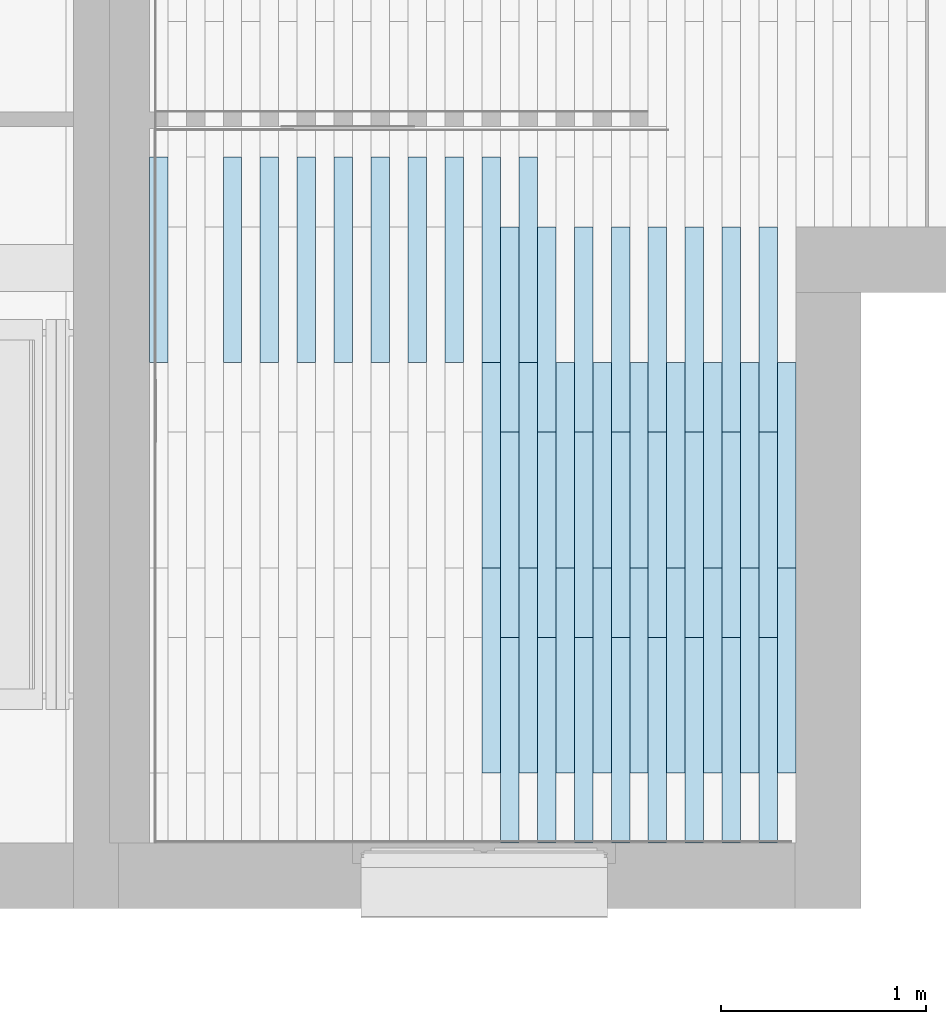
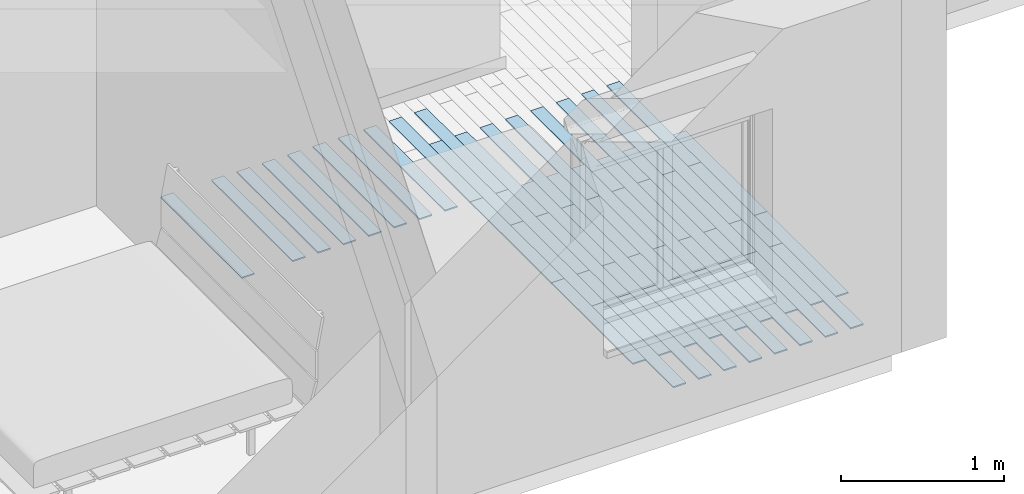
# One storey, part 2 of 50: 52 slabs.
"""IFC2X3 building model written with IfcOpenShell, lengths in metres."""

from ifc_helpers import new_model, entity, si_unit, converted_unit, derived_unit, direction, frame, frame_2d, origin, place, context, subcontext, project, spatial, rectangle, extrude, material, layer, layer_set, layer_usage, element, save


model = new_model("IFC2X3")

# Units and contexts
model_context = context("Model", 3, precision=1e-05, world=origin(), true_north=direction((6.12303176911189e-17, 1.0)))
context_of_model = context(None, 3, precision=1e-05, world=origin(), true_north=direction((6.12303176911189e-17, 1.0)))
body_context = subcontext(model_context, "Body", "Model", "MODEL_VIEW")
ifc_project = project(units=[si_unit("LENGTHUNIT", "METRE"), si_unit("AREAUNIT", "SQUARE_METRE"), si_unit("VOLUMEUNIT", "CUBIC_METRE"), converted_unit("PLANEANGLEUNIT", "DEGREE", entity("IfcRatioMeasure", 0.0174532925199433), si_unit("PLANEANGLEUNIT", "RADIAN"), dimensions=[0, 0, 0, 0, 0, 0, 0]), si_unit("MASSUNIT", "GRAM", prefix="KILO"), si_unit("TIMEUNIT", "SECOND"), si_unit("FREQUENCYUNIT", "HERTZ"), si_unit("THERMODYNAMICTEMPERATUREUNIT", "DEGREE_CELSIUS"), derived_unit("THERMALTRANSMITTANCEUNIT", [(si_unit("MASSUNIT", "GRAM", prefix="KILO"), 1), (si_unit("THERMODYNAMICTEMPERATUREUNIT", "KELVIN"), -1), (si_unit("TIMEUNIT", "SECOND"), -3)]), derived_unit("VOLUMETRICFLOWRATEUNIT", [(si_unit("LENGTHUNIT", "METRE"), 3), (si_unit("TIMEUNIT", "SECOND"), -1)]), si_unit("ELECTRICCURRENTUNIT", "AMPERE"), si_unit("ELECTRICVOLTAGEUNIT", "VOLT"), si_unit("POWERUNIT", "WATT"), si_unit("FORCEUNIT", "NEWTON", prefix="KILO"), si_unit("ILLUMINANCEUNIT", "LUX"), si_unit("LUMINOUSFLUXUNIT", "LUMEN"), si_unit("LUMINOUSINTENSITYUNIT", "CANDELA"), si_unit("PRESSUREUNIT", "PASCAL")], contexts=[model_context, context_of_model])

# Site, building, storey
site_placement = place(None, origin())
site = spatial("IfcSite", under=ifc_project, at=site_placement, Name="Surface", CompositionType="ELEMENT")
building_placement = place(site_placement, origin())
building = spatial("IfcBuilding", under=site, at=building_placement, CompositionType="ELEMENT")
storey_placement = place(building_placement, frame((0.0, 0.0, 2.82)))
storey = spatial("IfcBuildingStorey", under=building, at=storey_placement, Name="ETAGE", CompositionType="ELEMENT", Elevation=2.82)

# Slabs
ifc_material = material(Name="PARQUET BAMBOU")
ifc_layer = layer(ifc_material, 0.01)
ifc_layer_set = layer_set([ifc_layer], Name="Sol:LAME DE BAMBOU")
ifc_layer_usage_1 = layer_usage(ifc_layer_set, "AXIS3", "POSITIVE", 0.0)
slab_1_placement = place(storey_placement, origin())
element("IfcSlab", 1, at=slab_1_placement, inside=storey, material=ifc_layer_usage_1, Name="Sol:LAME DE BAMBOU", ObjectType="Sol:LAME DE BAMBOU", PredefinedType="FLOOR", context=body_context, shape_type="SweptSolid", body=[
    extrude(rectangle(XDim=0.999999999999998, YDim=0.0899999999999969, at=frame_2d((8.68749516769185e-15, 8.66320903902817e-15), x_axis=(1.0, 0.0))), frame((84.3060898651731, 84.0875239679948, 0.05), z_axis=(0.0, 0.0, -1.0), x_axis=(0.0, 1.0, 0.0)), (0.0, 0.0, 1.0), 0.00999999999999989),
])
ifc_layer_usage_2 = layer_usage(ifc_layer_set, "AXIS3", "POSITIVE", 0.0)
slab_2_placement = place(storey_placement, origin())
element("IfcSlab", 2, at=slab_2_placement, inside=storey, material=ifc_layer_usage_2, Name="Sol:LAME DE BAMBOU", ObjectType="Sol:LAME DE BAMBOU", PredefinedType="FLOOR", context=body_context, shape_type="SweptSolid", body=[
    extrude(rectangle(XDim=0.999999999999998, YDim=0.0899999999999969, at=frame_2d((8.68749516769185e-15, 8.66320903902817e-15), x_axis=(1.0, 0.0))), frame((84.4860898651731, 84.0875239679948, 0.05), z_axis=(0.0, 0.0, -1.0), x_axis=(0.0, 1.0, 0.0)), (0.0, 0.0, 1.0), 0.00999999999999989),
])
ifc_layer_usage_3 = layer_usage(ifc_layer_set, "AXIS3", "POSITIVE", 0.0)
slab_3_placement = place(storey_placement, origin())
element("IfcSlab", 3, at=slab_3_placement, inside=storey, material=ifc_layer_usage_3, Name="Sol:LAME DE BAMBOU", ObjectType="Sol:LAME DE BAMBOU", PredefinedType="FLOOR", context=body_context, shape_type="SweptSolid", body=[
    extrude(rectangle(XDim=0.999999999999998, YDim=0.0899999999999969, at=frame_2d((8.68749516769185e-15, 8.66320903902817e-15), x_axis=(1.0, 0.0))), frame((84.6660898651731, 84.0875239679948, 0.05), z_axis=(0.0, 0.0, -1.0), x_axis=(0.0, 1.0, 0.0)), (0.0, 0.0, 1.0), 0.00999999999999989),
])
ifc_layer_usage_4 = layer_usage(ifc_layer_set, "AXIS3", "POSITIVE", 0.0)
slab_4_placement = place(storey_placement, origin())
element("IfcSlab", 4, at=slab_4_placement, inside=storey, material=ifc_layer_usage_4, Name="Sol:LAME DE BAMBOU", ObjectType="Sol:LAME DE BAMBOU", PredefinedType="FLOOR", context=body_context, shape_type="SweptSolid", body=[
    extrude(rectangle(XDim=0.999999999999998, YDim=0.0899999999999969, at=frame_2d((8.68749516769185e-15, 8.66320903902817e-15), x_axis=(1.0, 0.0))), frame((84.8460898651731, 84.0875239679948, 0.05), z_axis=(0.0, 0.0, -1.0), x_axis=(0.0, 1.0, 0.0)), (0.0, 0.0, 1.0), 0.00999999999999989),
])
ifc_layer_usage_5 = layer_usage(ifc_layer_set, "AXIS3", "POSITIVE", 0.0)
slab_5_placement = place(storey_placement, origin())
element("IfcSlab", 5, at=slab_5_placement, inside=storey, material=ifc_layer_usage_5, Name="Sol:LAME DE BAMBOU", ObjectType="Sol:LAME DE BAMBOU", PredefinedType="FLOOR", context=body_context, shape_type="SweptSolid", body=[
    extrude(rectangle(XDim=0.999999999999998, YDim=0.0899999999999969, at=frame_2d((8.68749516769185e-15, 8.66320903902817e-15), x_axis=(1.0, 0.0))), frame((85.026089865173, 84.0875239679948, 0.05), z_axis=(0.0, 0.0, -1.0), x_axis=(0.0, 1.0, 0.0)), (0.0, 0.0, 1.0), 0.00999999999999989),
])
ifc_layer_usage_6 = layer_usage(ifc_layer_set, "AXIS3", "POSITIVE", 0.0)
slab_6_placement = place(storey_placement, origin())
element("IfcSlab", 6, at=slab_6_placement, inside=storey, material=ifc_layer_usage_6, Name="Sol:LAME DE BAMBOU", ObjectType="Sol:LAME DE BAMBOU", PredefinedType="FLOOR", context=body_context, shape_type="SweptSolid", body=[
    extrude(rectangle(XDim=0.999999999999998, YDim=0.0899999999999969, at=frame_2d((8.68749516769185e-15, 8.66320903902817e-15), x_axis=(1.0, 0.0))), frame((85.206089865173, 84.0875239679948, 0.05), z_axis=(0.0, 0.0, -1.0), x_axis=(0.0, 1.0, 0.0)), (0.0, 0.0, 1.0), 0.00999999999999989),
])
ifc_layer_usage_7 = layer_usage(ifc_layer_set, "AXIS3", "POSITIVE", 0.0)
slab_7_placement = place(storey_placement, origin())
element("IfcSlab", 7, at=slab_7_placement, inside=storey, material=ifc_layer_usage_7, Name="Sol:LAME DE BAMBOU", ObjectType="Sol:LAME DE BAMBOU", PredefinedType="FLOOR", context=body_context, shape_type="SweptSolid", body=[
    extrude(rectangle(XDim=0.999999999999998, YDim=0.0899999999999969, at=frame_2d((8.68749516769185e-15, 8.66320903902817e-15), x_axis=(1.0, 0.0))), frame((85.386089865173, 84.0875239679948, 0.05), z_axis=(0.0, 0.0, -1.0), x_axis=(0.0, 1.0, 0.0)), (0.0, 0.0, 1.0), 0.00999999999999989),
])
ifc_layer_usage_8 = layer_usage(ifc_layer_set, "AXIS3", "POSITIVE", 0.0)
slab_8_placement = place(storey_placement, origin())
element("IfcSlab", 8, at=slab_8_placement, inside=storey, material=ifc_layer_usage_8, Name="Sol:LAME DE BAMBOU", ObjectType="Sol:LAME DE BAMBOU", PredefinedType="FLOOR", context=body_context, shape_type="SweptSolid", body=[
    extrude(rectangle(XDim=0.999999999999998, YDim=0.0899999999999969, at=frame_2d((8.68749516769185e-15, 8.66320903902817e-15), x_axis=(1.0, 0.0))), frame((85.566089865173, 82.0875239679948, 0.05), z_axis=(0.0, 0.0, -1.0), x_axis=(0.0, 1.0, 0.0)), (0.0, 0.0, 1.0), 0.00999999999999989),
])
ifc_layer_usage_9 = layer_usage(ifc_layer_set, "AXIS3", "POSITIVE", 0.0)
slab_9_placement = place(storey_placement, origin())
element("IfcSlab", 9, at=slab_9_placement, inside=storey, material=ifc_layer_usage_9, Name="Sol:LAME DE BAMBOU", ObjectType="Sol:LAME DE BAMBOU", PredefinedType="FLOOR", context=body_context, shape_type="SweptSolid", body=[
    extrude(rectangle(XDim=0.999999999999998, YDim=0.0899999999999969, at=frame_2d((-8.68749516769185e-15, 8.66320903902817e-15), x_axis=(1.0, 0.0))), frame((85.566089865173, 83.0875239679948, 0.05), z_axis=(0.0, 0.0, -1.0), x_axis=(0.0, 1.0, 0.0)), (0.0, 0.0, 1.0), 0.00999999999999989),
])
ifc_layer_usage_10 = layer_usage(ifc_layer_set, "AXIS3", "POSITIVE", 0.0)
slab_10_placement = place(storey_placement, origin())
element("IfcSlab", 10, at=slab_10_placement, inside=storey, material=ifc_layer_usage_10, Name="Sol:LAME DE BAMBOU", ObjectType="Sol:LAME DE BAMBOU", PredefinedType="FLOOR", context=body_context, shape_type="SweptSolid", body=[
    extrude(rectangle(XDim=0.999999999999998, YDim=0.0899999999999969, at=frame_2d((8.68749516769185e-15, 8.66320903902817e-15), x_axis=(1.0, 0.0))), frame((85.566089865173, 84.0875239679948, 0.05), z_axis=(0.0, 0.0, -1.0), x_axis=(0.0, 1.0, 0.0)), (0.0, 0.0, 1.0), 0.00999999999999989),
])
ifc_layer_usage_11 = layer_usage(ifc_layer_set, "AXIS3", "POSITIVE", 0.0)
slab_11_placement = place(storey_placement, origin())
element("IfcSlab", 11, at=slab_11_placement, inside=storey, material=ifc_layer_usage_11, Name="Sol:LAME DE BAMBOU", ObjectType="Sol:LAME DE BAMBOU", PredefinedType="FLOOR", context=body_context, shape_type="SweptSolid", body=[
    extrude(rectangle(XDim=0.999999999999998, YDim=0.0899999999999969, at=frame_2d((8.68749516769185e-15, -8.66320903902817e-15), x_axis=(1.0, 0.0))), frame((85.656089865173, 81.7475239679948, 0.05), z_axis=(0.0, 0.0, -1.0), x_axis=(0.0, 1.0, 0.0)), (0.0, 0.0, 1.0), 0.00999999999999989),
])
ifc_layer_usage_12 = layer_usage(ifc_layer_set, "AXIS3", "POSITIVE", 0.0)
slab_12_placement = place(storey_placement, origin())
element("IfcSlab", 12, at=slab_12_placement, inside=storey, material=ifc_layer_usage_12, Name="Sol:LAME DE BAMBOU", ObjectType="Sol:LAME DE BAMBOU", PredefinedType="FLOOR", context=body_context, shape_type="SweptSolid", body=[
    extrude(rectangle(XDim=0.999999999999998, YDim=0.0899999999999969, at=frame_2d((-8.68749516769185e-15, -8.66320903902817e-15), x_axis=(1.0, 0.0))), frame((85.656089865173, 82.7475239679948, 0.05), z_axis=(0.0, 0.0, -1.0), x_axis=(0.0, 1.0, 0.0)), (0.0, 0.0, 1.0), 0.00999999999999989),
])
ifc_layer_usage_13 = layer_usage(ifc_layer_set, "AXIS3", "POSITIVE", 0.0)
slab_13_placement = place(storey_placement, origin())
element("IfcSlab", 13, at=slab_13_placement, inside=storey, material=ifc_layer_usage_13, Name="Sol:LAME DE BAMBOU", ObjectType="Sol:LAME DE BAMBOU", PredefinedType="FLOOR", context=body_context, shape_type="SweptSolid", body=[
    extrude(rectangle(XDim=0.999999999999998, YDim=0.0899999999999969, at=frame_2d((8.68749516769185e-15, -8.66320903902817e-15), x_axis=(1.0, 0.0))), frame((85.656089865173, 83.7475239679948, 0.05), z_axis=(0.0, 0.0, -1.0), x_axis=(0.0, 1.0, 0.0)), (0.0, 0.0, 1.0), 0.00999999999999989),
])
ifc_layer_usage_14 = layer_usage(ifc_layer_set, "AXIS3", "POSITIVE", 0.0)
slab_14_placement = place(storey_placement, origin())
element("IfcSlab", 14, at=slab_14_placement, inside=storey, material=ifc_layer_usage_14, Name="Sol:LAME DE BAMBOU", ObjectType="Sol:LAME DE BAMBOU", PredefinedType="FLOOR", context=body_context, shape_type="SweptSolid", body=[
    extrude(rectangle(XDim=0.999999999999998, YDim=0.0899999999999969, at=frame_2d((8.68749516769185e-15, 8.66320903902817e-15), x_axis=(1.0, 0.0))), frame((85.746089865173, 82.0875239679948, 0.05), z_axis=(0.0, 0.0, -1.0), x_axis=(0.0, 1.0, 0.0)), (0.0, 0.0, 1.0), 0.00999999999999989),
])
ifc_layer_usage_15 = layer_usage(ifc_layer_set, "AXIS3", "POSITIVE", 0.0)
slab_15_placement = place(storey_placement, origin())
element("IfcSlab", 15, at=slab_15_placement, inside=storey, material=ifc_layer_usage_15, Name="Sol:LAME DE BAMBOU", ObjectType="Sol:LAME DE BAMBOU", PredefinedType="FLOOR", context=body_context, shape_type="SweptSolid", body=[
    extrude(rectangle(XDim=0.999999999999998, YDim=0.0899999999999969, at=frame_2d((-8.68749516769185e-15, 8.66320903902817e-15), x_axis=(1.0, 0.0))), frame((85.746089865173, 83.0875239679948, 0.05), z_axis=(0.0, 0.0, -1.0), x_axis=(0.0, 1.0, 0.0)), (0.0, 0.0, 1.0), 0.00999999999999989),
])
ifc_layer_usage_16 = layer_usage(ifc_layer_set, "AXIS3", "POSITIVE", 0.0)
slab_16_placement = place(storey_placement, origin())
element("IfcSlab", 16, at=slab_16_placement, inside=storey, material=ifc_layer_usage_16, Name="Sol:LAME DE BAMBOU", ObjectType="Sol:LAME DE BAMBOU", PredefinedType="FLOOR", context=body_context, shape_type="SweptSolid", body=[
    extrude(rectangle(XDim=0.999999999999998, YDim=0.0899999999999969, at=frame_2d((8.68749516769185e-15, 8.66320903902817e-15), x_axis=(1.0, 0.0))), frame((85.746089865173, 84.0875239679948, 0.05), z_axis=(0.0, 0.0, -1.0), x_axis=(0.0, 1.0, 0.0)), (0.0, 0.0, 1.0), 0.00999999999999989),
])
ifc_layer_usage_17 = layer_usage(ifc_layer_set, "AXIS3", "POSITIVE", 0.0)
slab_17_placement = place(storey_placement, origin())
element("IfcSlab", 17, at=slab_17_placement, inside=storey, material=ifc_layer_usage_17, Name="Sol:LAME DE BAMBOU", ObjectType="Sol:LAME DE BAMBOU", PredefinedType="FLOOR", context=body_context, shape_type="SweptSolid", body=[
    extrude(rectangle(XDim=0.999999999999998, YDim=0.0899999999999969, at=frame_2d((8.68749516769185e-15, 8.66320903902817e-15), x_axis=(1.0, 0.0))), frame((85.836089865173, 81.7475239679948, 0.05), z_axis=(0.0, 0.0, -1.0), x_axis=(0.0, 1.0, 0.0)), (0.0, 0.0, 1.0), 0.00999999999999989),
])
ifc_layer_usage_18 = layer_usage(ifc_layer_set, "AXIS3", "POSITIVE", 0.0)
slab_18_placement = place(storey_placement, origin())
element("IfcSlab", 18, at=slab_18_placement, inside=storey, material=ifc_layer_usage_18, Name="Sol:LAME DE BAMBOU", ObjectType="Sol:LAME DE BAMBOU", PredefinedType="FLOOR", context=body_context, shape_type="SweptSolid", body=[
    extrude(rectangle(XDim=0.999999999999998, YDim=0.0899999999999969, at=frame_2d((-8.68749516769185e-15, 8.66320903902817e-15), x_axis=(1.0, 0.0))), frame((85.836089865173, 82.7475239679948, 0.05), z_axis=(0.0, 0.0, -1.0), x_axis=(0.0, 1.0, 0.0)), (0.0, 0.0, 1.0), 0.00999999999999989),
])
ifc_layer_usage_19 = layer_usage(ifc_layer_set, "AXIS3", "POSITIVE", 0.0)
slab_19_placement = place(storey_placement, origin())
element("IfcSlab", 19, at=slab_19_placement, inside=storey, material=ifc_layer_usage_19, Name="Sol:LAME DE BAMBOU", ObjectType="Sol:LAME DE BAMBOU", PredefinedType="FLOOR", context=body_context, shape_type="SweptSolid", body=[
    extrude(rectangle(XDim=0.999999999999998, YDim=0.0899999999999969, at=frame_2d((8.68749516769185e-15, 8.66320903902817e-15), x_axis=(1.0, 0.0))), frame((85.836089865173, 83.7475239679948, 0.05), z_axis=(0.0, 0.0, -1.0), x_axis=(0.0, 1.0, 0.0)), (0.0, 0.0, 1.0), 0.00999999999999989),
])
ifc_layer_usage_20 = layer_usage(ifc_layer_set, "AXIS3", "POSITIVE", 0.0)
slab_20_placement = place(storey_placement, origin())
element("IfcSlab", 20, at=slab_20_placement, inside=storey, material=ifc_layer_usage_20, Name="Sol:LAME DE BAMBOU", ObjectType="Sol:LAME DE BAMBOU", PredefinedType="FLOOR", context=body_context, shape_type="SweptSolid", body=[
    extrude(rectangle(XDim=0.999999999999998, YDim=0.0899999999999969, at=frame_2d((8.68749516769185e-15, 8.66320903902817e-15), x_axis=(1.0, 0.0))), frame((85.926089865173, 82.0875239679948, 0.05), z_axis=(0.0, 0.0, -1.0), x_axis=(0.0, 1.0, 0.0)), (0.0, 0.0, 1.0), 0.00999999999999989),
])
ifc_layer_usage_21 = layer_usage(ifc_layer_set, "AXIS3", "POSITIVE", 0.0)
slab_21_placement = place(storey_placement, origin())
element("IfcSlab", 21, at=slab_21_placement, inside=storey, material=ifc_layer_usage_21, Name="Sol:LAME DE BAMBOU", ObjectType="Sol:LAME DE BAMBOU", PredefinedType="FLOOR", context=body_context, shape_type="SweptSolid", body=[
    extrude(rectangle(XDim=0.999999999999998, YDim=0.0899999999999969, at=frame_2d((-8.68749516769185e-15, 8.66320903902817e-15), x_axis=(1.0, 0.0))), frame((85.926089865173, 83.0875239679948, 0.05), z_axis=(0.0, 0.0, -1.0), x_axis=(0.0, 1.0, 0.0)), (0.0, 0.0, 1.0), 0.00999999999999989),
])
ifc_layer_usage_22 = layer_usage(ifc_layer_set, "AXIS3", "POSITIVE", 0.0)
slab_22_placement = place(storey_placement, origin())
element("IfcSlab", 22, at=slab_22_placement, inside=storey, material=ifc_layer_usage_22, Name="Sol:LAME DE BAMBOU", ObjectType="Sol:LAME DE BAMBOU", PredefinedType="FLOOR", context=body_context, shape_type="SweptSolid", body=[
    extrude(rectangle(XDim=0.999999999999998, YDim=0.0899999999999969, at=frame_2d((8.68749516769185e-15, -8.66320903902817e-15), x_axis=(1.0, 0.0))), frame((86.016089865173, 81.7475239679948, 0.05), z_axis=(0.0, 0.0, -1.0), x_axis=(0.0, 1.0, 0.0)), (0.0, 0.0, 1.0), 0.00999999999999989),
])
ifc_layer_usage_23 = layer_usage(ifc_layer_set, "AXIS3", "POSITIVE", 0.0)
slab_23_placement = place(storey_placement, origin())
element("IfcSlab", 23, at=slab_23_placement, inside=storey, material=ifc_layer_usage_23, Name="Sol:LAME DE BAMBOU", ObjectType="Sol:LAME DE BAMBOU", PredefinedType="FLOOR", context=body_context, shape_type="SweptSolid", body=[
    extrude(rectangle(XDim=0.999999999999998, YDim=0.0899999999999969, at=frame_2d((-8.68749516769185e-15, -8.66320903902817e-15), x_axis=(1.0, 0.0))), frame((86.016089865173, 82.7475239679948, 0.05), z_axis=(0.0, 0.0, -1.0), x_axis=(0.0, 1.0, 0.0)), (0.0, 0.0, 1.0), 0.00999999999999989),
])
ifc_layer_usage_24 = layer_usage(ifc_layer_set, "AXIS3", "POSITIVE", 0.0)
slab_24_placement = place(storey_placement, origin())
element("IfcSlab", 24, at=slab_24_placement, inside=storey, material=ifc_layer_usage_24, Name="Sol:LAME DE BAMBOU", ObjectType="Sol:LAME DE BAMBOU", PredefinedType="FLOOR", context=body_context, shape_type="SweptSolid", body=[
    extrude(rectangle(XDim=0.999999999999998, YDim=0.0899999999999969, at=frame_2d((8.68749516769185e-15, -8.66320903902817e-15), x_axis=(1.0, 0.0))), frame((86.016089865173, 83.7475239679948, 0.05), z_axis=(0.0, 0.0, -1.0), x_axis=(0.0, 1.0, 0.0)), (0.0, 0.0, 1.0), 0.00999999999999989),
])
ifc_layer_usage_25 = layer_usage(ifc_layer_set, "AXIS3", "POSITIVE", 0.0)
slab_25_placement = place(storey_placement, origin())
element("IfcSlab", 25, at=slab_25_placement, inside=storey, material=ifc_layer_usage_25, Name="Sol:LAME DE BAMBOU", ObjectType="Sol:LAME DE BAMBOU", PredefinedType="FLOOR", context=body_context, shape_type="SweptSolid", body=[
    extrude(rectangle(XDim=0.999999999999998, YDim=0.0899999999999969, at=frame_2d((8.68749516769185e-15, 8.66320903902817e-15), x_axis=(1.0, 0.0))), frame((86.106089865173, 82.0875239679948, 0.05), z_axis=(0.0, 0.0, -1.0), x_axis=(0.0, 1.0, 0.0)), (0.0, 0.0, 1.0), 0.00999999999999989),
])
ifc_layer_usage_26 = layer_usage(ifc_layer_set, "AXIS3", "POSITIVE", 0.0)
slab_26_placement = place(storey_placement, origin())
element("IfcSlab", 26, at=slab_26_placement, inside=storey, material=ifc_layer_usage_26, Name="Sol:LAME DE BAMBOU", ObjectType="Sol:LAME DE BAMBOU", PredefinedType="FLOOR", context=body_context, shape_type="SweptSolid", body=[
    extrude(rectangle(XDim=0.999999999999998, YDim=0.0899999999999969, at=frame_2d((-8.68749516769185e-15, 8.66320903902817e-15), x_axis=(1.0, 0.0))), frame((86.106089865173, 83.0875239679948, 0.05), z_axis=(0.0, 0.0, -1.0), x_axis=(0.0, 1.0, 0.0)), (0.0, 0.0, 1.0), 0.00999999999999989),
])
ifc_layer_usage_27 = layer_usage(ifc_layer_set, "AXIS3", "POSITIVE", 0.0)
slab_27_placement = place(storey_placement, origin())
element("IfcSlab", 27, at=slab_27_placement, inside=storey, material=ifc_layer_usage_27, Name="Sol:LAME DE BAMBOU", ObjectType="Sol:LAME DE BAMBOU", PredefinedType="FLOOR", context=body_context, shape_type="SweptSolid", body=[
    extrude(rectangle(XDim=0.999999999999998, YDim=0.0899999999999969, at=frame_2d((8.68749516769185e-15, 8.66320903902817e-15), x_axis=(1.0, 0.0))), frame((86.196089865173, 81.7475239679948, 0.05), z_axis=(0.0, 0.0, -1.0), x_axis=(0.0, 1.0, 0.0)), (0.0, 0.0, 1.0), 0.00999999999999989),
])
ifc_layer_usage_28 = layer_usage(ifc_layer_set, "AXIS3", "POSITIVE", 0.0)
slab_28_placement = place(storey_placement, origin())
element("IfcSlab", 28, at=slab_28_placement, inside=storey, material=ifc_layer_usage_28, Name="Sol:LAME DE BAMBOU", ObjectType="Sol:LAME DE BAMBOU", PredefinedType="FLOOR", context=body_context, shape_type="SweptSolid", body=[
    extrude(rectangle(XDim=0.999999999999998, YDim=0.0899999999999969, at=frame_2d((-8.68749516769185e-15, 8.66320903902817e-15), x_axis=(1.0, 0.0))), frame((86.196089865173, 82.7475239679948, 0.05), z_axis=(0.0, 0.0, -1.0), x_axis=(0.0, 1.0, 0.0)), (0.0, 0.0, 1.0), 0.00999999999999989),
])
ifc_layer_usage_29 = layer_usage(ifc_layer_set, "AXIS3", "POSITIVE", 0.0)
slab_29_placement = place(storey_placement, origin())
element("IfcSlab", 29, at=slab_29_placement, inside=storey, material=ifc_layer_usage_29, Name="Sol:LAME DE BAMBOU", ObjectType="Sol:LAME DE BAMBOU", PredefinedType="FLOOR", context=body_context, shape_type="SweptSolid", body=[
    extrude(rectangle(XDim=0.999999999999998, YDim=0.0899999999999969, at=frame_2d((8.68749516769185e-15, 8.66320903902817e-15), x_axis=(1.0, 0.0))), frame((86.196089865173, 83.7475239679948, 0.05), z_axis=(0.0, 0.0, -1.0), x_axis=(0.0, 1.0, 0.0)), (0.0, 0.0, 1.0), 0.00999999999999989),
])
ifc_layer_usage_30 = layer_usage(ifc_layer_set, "AXIS3", "POSITIVE", 0.0)
slab_30_placement = place(storey_placement, origin())
element("IfcSlab", 30, at=slab_30_placement, inside=storey, material=ifc_layer_usage_30, Name="Sol:LAME DE BAMBOU", ObjectType="Sol:LAME DE BAMBOU", PredefinedType="FLOOR", context=body_context, shape_type="SweptSolid", body=[
    extrude(rectangle(XDim=0.999999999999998, YDim=0.0899999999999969, at=frame_2d((8.68749516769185e-15, 8.66320903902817e-15), x_axis=(1.0, 0.0))), frame((86.286089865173, 82.0875239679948, 0.05), z_axis=(0.0, 0.0, -1.0), x_axis=(0.0, 1.0, 0.0)), (0.0, 0.0, 1.0), 0.00999999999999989),
])
ifc_layer_usage_31 = layer_usage(ifc_layer_set, "AXIS3", "POSITIVE", 0.0)
slab_31_placement = place(storey_placement, origin())
element("IfcSlab", 31, at=slab_31_placement, inside=storey, material=ifc_layer_usage_31, Name="Sol:LAME DE BAMBOU", ObjectType="Sol:LAME DE BAMBOU", PredefinedType="FLOOR", context=body_context, shape_type="SweptSolid", body=[
    extrude(rectangle(XDim=0.999999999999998, YDim=0.0899999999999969, at=frame_2d((-8.68749516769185e-15, 8.66320903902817e-15), x_axis=(1.0, 0.0))), frame((86.286089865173, 83.0875239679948, 0.05), z_axis=(0.0, 0.0, -1.0), x_axis=(0.0, 1.0, 0.0)), (0.0, 0.0, 1.0), 0.00999999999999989),
])
ifc_layer_usage_32 = layer_usage(ifc_layer_set, "AXIS3", "POSITIVE", 0.0)
slab_32_placement = place(storey_placement, origin())
element("IfcSlab", 32, at=slab_32_placement, inside=storey, material=ifc_layer_usage_32, Name="Sol:LAME DE BAMBOU", ObjectType="Sol:LAME DE BAMBOU", PredefinedType="FLOOR", context=body_context, shape_type="SweptSolid", body=[
    extrude(rectangle(XDim=0.999999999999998, YDim=0.0899999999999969, at=frame_2d((8.68749516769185e-15, -8.66320903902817e-15), x_axis=(1.0, 0.0))), frame((86.376089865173, 81.7475239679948, 0.05), z_axis=(0.0, 0.0, -1.0), x_axis=(0.0, 1.0, 0.0)), (0.0, 0.0, 1.0), 0.00999999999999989),
])
ifc_layer_usage_33 = layer_usage(ifc_layer_set, "AXIS3", "POSITIVE", 0.0)
slab_33_placement = place(storey_placement, origin())
element("IfcSlab", 33, at=slab_33_placement, inside=storey, material=ifc_layer_usage_33, Name="Sol:LAME DE BAMBOU", ObjectType="Sol:LAME DE BAMBOU", PredefinedType="FLOOR", context=body_context, shape_type="SweptSolid", body=[
    extrude(rectangle(XDim=0.999999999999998, YDim=0.0899999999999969, at=frame_2d((-8.68749516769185e-15, -8.66320903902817e-15), x_axis=(1.0, 0.0))), frame((86.376089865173, 82.7475239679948, 0.05), z_axis=(0.0, 0.0, -1.0), x_axis=(0.0, 1.0, 0.0)), (0.0, 0.0, 1.0), 0.00999999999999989),
])
ifc_layer_usage_34 = layer_usage(ifc_layer_set, "AXIS3", "POSITIVE", 0.0)
slab_34_placement = place(storey_placement, origin())
element("IfcSlab", 34, at=slab_34_placement, inside=storey, material=ifc_layer_usage_34, Name="Sol:LAME DE BAMBOU", ObjectType="Sol:LAME DE BAMBOU", PredefinedType="FLOOR", context=body_context, shape_type="SweptSolid", body=[
    extrude(rectangle(XDim=0.999999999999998, YDim=0.0899999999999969, at=frame_2d((8.68749516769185e-15, -8.66320903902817e-15), x_axis=(1.0, 0.0))), frame((86.376089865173, 83.7475239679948, 0.05), z_axis=(0.0, 0.0, -1.0), x_axis=(0.0, 1.0, 0.0)), (0.0, 0.0, 1.0), 0.00999999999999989),
])
ifc_layer_usage_35 = layer_usage(ifc_layer_set, "AXIS3", "POSITIVE", 0.0)
slab_35_placement = place(storey_placement, origin())
element("IfcSlab", 35, at=slab_35_placement, inside=storey, material=ifc_layer_usage_35, Name="Sol:LAME DE BAMBOU", ObjectType="Sol:LAME DE BAMBOU", PredefinedType="FLOOR", context=body_context, shape_type="SweptSolid", body=[
    extrude(rectangle(XDim=0.999999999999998, YDim=0.0899999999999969, at=frame_2d((8.68749516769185e-15, 8.66320903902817e-15), x_axis=(1.0, 0.0))), frame((86.466089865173, 82.0875239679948, 0.05), z_axis=(0.0, 0.0, -1.0), x_axis=(0.0, 1.0, 0.0)), (0.0, 0.0, 1.0), 0.00999999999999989),
])
ifc_layer_usage_36 = layer_usage(ifc_layer_set, "AXIS3", "POSITIVE", 0.0)
slab_36_placement = place(storey_placement, origin())
element("IfcSlab", 36, at=slab_36_placement, inside=storey, material=ifc_layer_usage_36, Name="Sol:LAME DE BAMBOU", ObjectType="Sol:LAME DE BAMBOU", PredefinedType="FLOOR", context=body_context, shape_type="SweptSolid", body=[
    extrude(rectangle(XDim=0.999999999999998, YDim=0.0899999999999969, at=frame_2d((-8.68749516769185e-15, 8.66320903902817e-15), x_axis=(1.0, 0.0))), frame((86.466089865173, 83.0875239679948, 0.05), z_axis=(0.0, 0.0, -1.0), x_axis=(0.0, 1.0, 0.0)), (0.0, 0.0, 1.0), 0.00999999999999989),
])
ifc_layer_usage_37 = layer_usage(ifc_layer_set, "AXIS3", "POSITIVE", 0.0)
slab_37_placement = place(storey_placement, origin())
element("IfcSlab", 37, at=slab_37_placement, inside=storey, material=ifc_layer_usage_37, Name="Sol:LAME DE BAMBOU", ObjectType="Sol:LAME DE BAMBOU", PredefinedType="FLOOR", context=body_context, shape_type="SweptSolid", body=[
    extrude(rectangle(XDim=0.999999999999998, YDim=0.0899999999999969, at=frame_2d((8.68749516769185e-15, 8.66320903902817e-15), x_axis=(1.0, 0.0))), frame((86.556089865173, 81.7475239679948, 0.05), z_axis=(0.0, 0.0, -1.0), x_axis=(0.0, 1.0, 0.0)), (0.0, 0.0, 1.0), 0.00999999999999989),
])
ifc_layer_usage_38 = layer_usage(ifc_layer_set, "AXIS3", "POSITIVE", 0.0)
slab_38_placement = place(storey_placement, origin())
element("IfcSlab", 38, at=slab_38_placement, inside=storey, material=ifc_layer_usage_38, Name="Sol:LAME DE BAMBOU", ObjectType="Sol:LAME DE BAMBOU", PredefinedType="FLOOR", context=body_context, shape_type="SweptSolid", body=[
    extrude(rectangle(XDim=0.999999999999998, YDim=0.0899999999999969, at=frame_2d((-8.68749516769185e-15, 8.66320903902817e-15), x_axis=(1.0, 0.0))), frame((86.556089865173, 82.7475239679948, 0.05), z_axis=(0.0, 0.0, -1.0), x_axis=(0.0, 1.0, 0.0)), (0.0, 0.0, 1.0), 0.00999999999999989),
])
ifc_layer_usage_39 = layer_usage(ifc_layer_set, "AXIS3", "POSITIVE", 0.0)
slab_39_placement = place(storey_placement, origin())
element("IfcSlab", 39, at=slab_39_placement, inside=storey, material=ifc_layer_usage_39, Name="Sol:LAME DE BAMBOU", ObjectType="Sol:LAME DE BAMBOU", PredefinedType="FLOOR", context=body_context, shape_type="SweptSolid", body=[
    extrude(rectangle(XDim=0.999999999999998, YDim=0.0899999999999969, at=frame_2d((8.68749516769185e-15, 8.66320903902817e-15), x_axis=(1.0, 0.0))), frame((86.556089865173, 83.7475239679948, 0.05), z_axis=(0.0, 0.0, -1.0), x_axis=(0.0, 1.0, 0.0)), (0.0, 0.0, 1.0), 0.00999999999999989),
])
ifc_layer_usage_40 = layer_usage(ifc_layer_set, "AXIS3", "POSITIVE", 0.0)
slab_40_placement = place(storey_placement, origin())
element("IfcSlab", 40, at=slab_40_placement, inside=storey, material=ifc_layer_usage_40, Name="Sol:LAME DE BAMBOU", ObjectType="Sol:LAME DE BAMBOU", PredefinedType="FLOOR", context=body_context, shape_type="SweptSolid", body=[
    extrude(rectangle(XDim=0.999999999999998, YDim=0.0899999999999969, at=frame_2d((8.68749516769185e-15, 8.66320903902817e-15), x_axis=(1.0, 0.0))), frame((86.646089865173, 82.0875239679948, 0.05), z_axis=(0.0, 0.0, -1.0), x_axis=(0.0, 1.0, 0.0)), (0.0, 0.0, 1.0), 0.00999999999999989),
])
ifc_layer_usage_41 = layer_usage(ifc_layer_set, "AXIS3", "POSITIVE", 0.0)
slab_41_placement = place(storey_placement, origin())
element("IfcSlab", 41, at=slab_41_placement, inside=storey, material=ifc_layer_usage_41, Name="Sol:LAME DE BAMBOU", ObjectType="Sol:LAME DE BAMBOU", PredefinedType="FLOOR", context=body_context, shape_type="SweptSolid", body=[
    extrude(rectangle(XDim=0.999999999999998, YDim=0.0899999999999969, at=frame_2d((-8.68749516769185e-15, 8.66320903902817e-15), x_axis=(1.0, 0.0))), frame((86.646089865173, 83.0875239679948, 0.05), z_axis=(0.0, 0.0, -1.0), x_axis=(0.0, 1.0, 0.0)), (0.0, 0.0, 1.0), 0.00999999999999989),
])
ifc_layer_usage_42 = layer_usage(ifc_layer_set, "AXIS3", "POSITIVE", 0.0)
slab_42_placement = place(storey_placement, origin())
element("IfcSlab", 42, at=slab_42_placement, inside=storey, material=ifc_layer_usage_42, Name="Sol:LAME DE BAMBOU", ObjectType="Sol:LAME DE BAMBOU", PredefinedType="FLOOR", context=body_context, shape_type="SweptSolid", body=[
    extrude(rectangle(XDim=0.999999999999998, YDim=0.0899999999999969, at=frame_2d((8.68749516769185e-15, -8.66320903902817e-15), x_axis=(1.0, 0.0))), frame((86.736089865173, 81.7475239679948, 0.05), z_axis=(0.0, 0.0, -1.0), x_axis=(0.0, 1.0, 0.0)), (0.0, 0.0, 1.0), 0.00999999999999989),
])
ifc_layer_usage_43 = layer_usage(ifc_layer_set, "AXIS3", "POSITIVE", 0.0)
slab_43_placement = place(storey_placement, origin())
element("IfcSlab", 43, at=slab_43_placement, inside=storey, material=ifc_layer_usage_43, Name="Sol:LAME DE BAMBOU", ObjectType="Sol:LAME DE BAMBOU", PredefinedType="FLOOR", context=body_context, shape_type="SweptSolid", body=[
    extrude(rectangle(XDim=0.999999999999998, YDim=0.0899999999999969, at=frame_2d((-8.68749516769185e-15, -8.66320903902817e-15), x_axis=(1.0, 0.0))), frame((86.736089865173, 82.7475239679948, 0.05), z_axis=(0.0, 0.0, -1.0), x_axis=(0.0, 1.0, 0.0)), (0.0, 0.0, 1.0), 0.00999999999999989),
])
ifc_layer_usage_44 = layer_usage(ifc_layer_set, "AXIS3", "POSITIVE", 0.0)
slab_44_placement = place(storey_placement, origin())
element("IfcSlab", 44, at=slab_44_placement, inside=storey, material=ifc_layer_usage_44, Name="Sol:LAME DE BAMBOU", ObjectType="Sol:LAME DE BAMBOU", PredefinedType="FLOOR", context=body_context, shape_type="SweptSolid", body=[
    extrude(rectangle(XDim=0.999999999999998, YDim=0.0899999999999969, at=frame_2d((8.68749516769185e-15, -8.66320903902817e-15), x_axis=(1.0, 0.0))), frame((86.736089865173, 83.7475239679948, 0.05), z_axis=(0.0, 0.0, -1.0), x_axis=(0.0, 1.0, 0.0)), (0.0, 0.0, 1.0), 0.00999999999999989),
])
ifc_layer_usage_45 = layer_usage(ifc_layer_set, "AXIS3", "POSITIVE", 0.0)
slab_45_placement = place(storey_placement, origin())
element("IfcSlab", 45, at=slab_45_placement, inside=storey, material=ifc_layer_usage_45, Name="Sol:LAME DE BAMBOU", ObjectType="Sol:LAME DE BAMBOU", PredefinedType="FLOOR", context=body_context, shape_type="SweptSolid", body=[
    extrude(rectangle(XDim=0.999999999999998, YDim=0.0899999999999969, at=frame_2d((8.68749516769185e-15, 8.66320903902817e-15), x_axis=(1.0, 0.0))), frame((86.826089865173, 82.0875239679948, 0.05), z_axis=(0.0, 0.0, -1.0), x_axis=(0.0, 1.0, 0.0)), (0.0, 0.0, 1.0), 0.00999999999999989),
])
ifc_layer_usage_46 = layer_usage(ifc_layer_set, "AXIS3", "POSITIVE", 0.0)
slab_46_placement = place(storey_placement, origin())
element("IfcSlab", 46, at=slab_46_placement, inside=storey, material=ifc_layer_usage_46, Name="Sol:LAME DE BAMBOU", ObjectType="Sol:LAME DE BAMBOU", PredefinedType="FLOOR", context=body_context, shape_type="SweptSolid", body=[
    extrude(rectangle(XDim=0.999999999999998, YDim=0.0899999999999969, at=frame_2d((-8.68749516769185e-15, 8.66320903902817e-15), x_axis=(1.0, 0.0))), frame((86.826089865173, 83.0875239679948, 0.05), z_axis=(0.0, 0.0, -1.0), x_axis=(0.0, 1.0, 0.0)), (0.0, 0.0, 1.0), 0.00999999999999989),
])
ifc_layer_usage_47 = layer_usage(ifc_layer_set, "AXIS3", "POSITIVE", 0.0)
slab_47_placement = place(storey_placement, origin())
element("IfcSlab", 47, at=slab_47_placement, inside=storey, material=ifc_layer_usage_47, Name="Sol:LAME DE BAMBOU", ObjectType="Sol:LAME DE BAMBOU", PredefinedType="FLOOR", context=body_context, shape_type="SweptSolid", body=[
    extrude(rectangle(XDim=0.999999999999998, YDim=0.0899999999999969, at=frame_2d((8.68749516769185e-15, 8.66320903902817e-15), x_axis=(1.0, 0.0))), frame((86.916089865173, 81.7475239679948, 0.05), z_axis=(0.0, 0.0, -1.0), x_axis=(0.0, 1.0, 0.0)), (0.0, 0.0, 1.0), 0.00999999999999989),
])
ifc_layer_usage_48 = layer_usage(ifc_layer_set, "AXIS3", "POSITIVE", 0.0)
slab_48_placement = place(storey_placement, origin())
element("IfcSlab", 48, at=slab_48_placement, inside=storey, material=ifc_layer_usage_48, Name="Sol:LAME DE BAMBOU", ObjectType="Sol:LAME DE BAMBOU", PredefinedType="FLOOR", context=body_context, shape_type="SweptSolid", body=[
    extrude(rectangle(XDim=0.999999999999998, YDim=0.0899999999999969, at=frame_2d((-8.68749516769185e-15, 8.66320903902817e-15), x_axis=(1.0, 0.0))), frame((86.916089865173, 82.7475239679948, 0.05), z_axis=(0.0, 0.0, -1.0), x_axis=(0.0, 1.0, 0.0)), (0.0, 0.0, 1.0), 0.00999999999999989),
])
ifc_layer_usage_49 = layer_usage(ifc_layer_set, "AXIS3", "POSITIVE", 0.0)
slab_49_placement = place(storey_placement, origin())
element("IfcSlab", 49, at=slab_49_placement, inside=storey, material=ifc_layer_usage_49, Name="Sol:LAME DE BAMBOU", ObjectType="Sol:LAME DE BAMBOU", PredefinedType="FLOOR", context=body_context, shape_type="SweptSolid", body=[
    extrude(rectangle(XDim=0.999999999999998, YDim=0.0899999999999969, at=frame_2d((8.68749516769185e-15, 8.66320903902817e-15), x_axis=(1.0, 0.0))), frame((86.916089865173, 83.7475239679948, 0.05), z_axis=(0.0, 0.0, -1.0), x_axis=(0.0, 1.0, 0.0)), (0.0, 0.0, 1.0), 0.00999999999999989),
])
ifc_layer_usage_50 = layer_usage(ifc_layer_set, "AXIS3", "POSITIVE", 0.0)
slab_50_placement = place(storey_placement, origin())
element("IfcSlab", 50, at=slab_50_placement, inside=storey, material=ifc_layer_usage_50, Name="Sol:LAME DE BAMBOU", ObjectType="Sol:LAME DE BAMBOU", PredefinedType="FLOOR", context=body_context, shape_type="SweptSolid", body=[
    extrude(rectangle(XDim=0.999999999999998, YDim=0.0899999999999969, at=frame_2d((8.68749516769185e-15, 8.66320903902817e-15), x_axis=(1.0, 0.0))), frame((87.006089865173, 82.0875239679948, 0.05), z_axis=(0.0, 0.0, -1.0), x_axis=(0.0, 1.0, 0.0)), (0.0, 0.0, 1.0), 0.00999999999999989),
])
ifc_layer_usage_51 = layer_usage(ifc_layer_set, "AXIS3", "POSITIVE", 0.0)
slab_51_placement = place(storey_placement, origin())
element("IfcSlab", 51, at=slab_51_placement, inside=storey, material=ifc_layer_usage_51, Name="Sol:LAME DE BAMBOU", ObjectType="Sol:LAME DE BAMBOU", PredefinedType="FLOOR", context=body_context, shape_type="SweptSolid", body=[
    extrude(rectangle(XDim=0.999999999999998, YDim=0.0899999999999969, at=frame_2d((-8.68749516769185e-15, 8.66320903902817e-15), x_axis=(1.0, 0.0))), frame((87.006089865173, 83.0875239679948, 0.05), z_axis=(0.0, 0.0, -1.0), x_axis=(0.0, 1.0, 0.0)), (0.0, 0.0, 1.0), 0.00999999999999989),
])
ifc_layer_usage_52 = layer_usage(ifc_layer_set, "AXIS3", "POSITIVE", 0.0)
slab_52_placement = place(storey_placement, origin())
element("IfcSlab", 52, at=slab_52_placement, inside=storey, material=ifc_layer_usage_52, Name="Sol:LAME DE BAMBOU", ObjectType="Sol:LAME DE BAMBOU", PredefinedType="FLOOR", context=body_context, shape_type="SweptSolid", body=[
    extrude(rectangle(XDim=0.999999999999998, YDim=0.0899999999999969, at=frame_2d((8.68749516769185e-15, 8.66320903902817e-15), x_axis=(1.0, 0.0))), frame((83.9460898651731, 84.0875239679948, 0.05), z_axis=(0.0, 0.0, -1.0), x_axis=(0.0, 1.0, 0.0)), (0.0, 0.0, 1.0), 0.00999999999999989),
])

save(model, "model.ifc")
